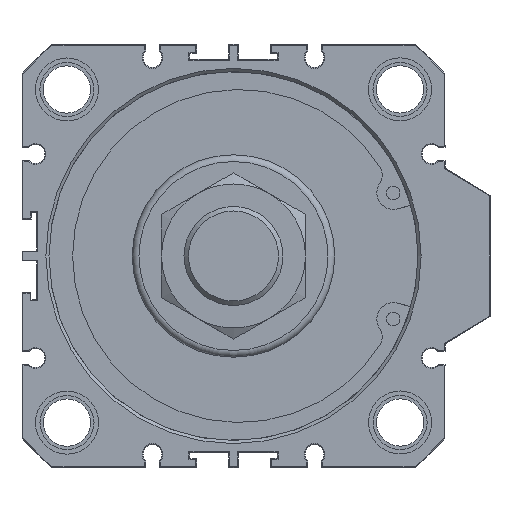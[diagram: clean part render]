
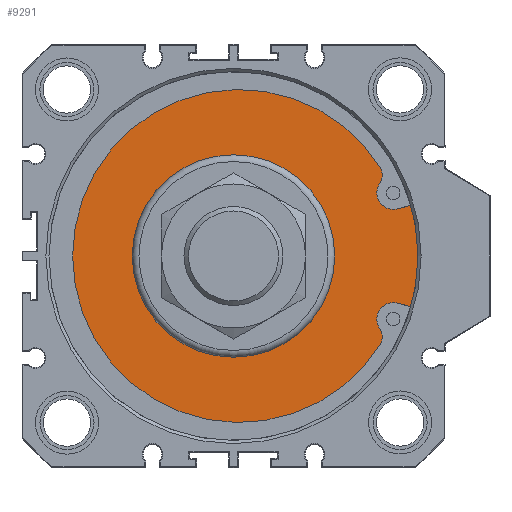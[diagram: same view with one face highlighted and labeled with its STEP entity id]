
A CAD part, front view. The second image highlights one B-rep face of the part: STEP entity #9291.
In plain terms, the highlighted planar face has unit normal (0, -1, 0).
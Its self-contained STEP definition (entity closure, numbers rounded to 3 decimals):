
#56=LINE('',#12771,#656);
#57=LINE('',#12783,#657);
#656=VECTOR('',#10699,1000.);
#657=VECTOR('',#10710,1000.);
#1434=PLANE('',#9821);
#1992=ORIENTED_EDGE('',*,*,#3596,.T.);
#1993=ORIENTED_EDGE('',*,*,#3609,.F.);
#1994=ORIENTED_EDGE('',*,*,#3610,.T.);
#1995=ORIENTED_EDGE('',*,*,#3611,.T.);
#1996=ORIENTED_EDGE('',*,*,#3612,.T.);
#1997=ORIENTED_EDGE('',*,*,#3613,.T.);
#1998=ORIENTED_EDGE('',*,*,#3614,.T.);
#1999=ORIENTED_EDGE('',*,*,#3615,.T.);
#2000=ORIENTED_EDGE('',*,*,#3616,.T.);
#3596=EDGE_CURVE('',#4436,#4436,#4928,.T.);
#3609=EDGE_CURVE('',#4449,#4450,#4939,.T.);
#3610=EDGE_CURVE('',#4449,#4451,#56,.T.);
#3611=EDGE_CURVE('',#4451,#4452,#4940,.T.);
#3612=EDGE_CURVE('',#4452,#4453,#4941,.T.);
#3613=EDGE_CURVE('',#4453,#4454,#4942,.T.);
#3614=EDGE_CURVE('',#4454,#4455,#4943,.T.);
#3615=EDGE_CURVE('',#4455,#4456,#4944,.T.);
#3616=EDGE_CURVE('',#4456,#4450,#57,.T.);
#4436=VERTEX_POINT('',#12737);
#4449=VERTEX_POINT('',#12769);
#4450=VERTEX_POINT('',#12770);
#4451=VERTEX_POINT('',#12772);
#4452=VERTEX_POINT('',#12774);
#4453=VERTEX_POINT('',#12776);
#4454=VERTEX_POINT('',#12778);
#4455=VERTEX_POINT('',#12780);
#4456=VERTEX_POINT('',#12782);
#4928=CIRCLE('',#9805,22.5);
#4939=CIRCLE('',#9822,42.75);
#4940=CIRCLE('',#9823,3.655);
#4941=CIRCLE('',#9824,3.556);
#4942=CIRCLE('',#9825,37.);
#4943=CIRCLE('',#9826,3.556);
#4944=CIRCLE('',#9827,3.655);
#5209=EDGE_LOOP('',(#1992));
#5210=EDGE_LOOP('',(#1993,#1994,#1995,#1996,#1997,#1998,#1999,#2000));
#5723=FACE_BOUND('',#5209,.T.);
#5724=FACE_BOUND('',#5210,.T.);
#9291=ADVANCED_FACE('',(#5723,#5724),#1434,.F.);
#9805=AXIS2_PLACEMENT_3D('',#12736,#10661,#10662);
#9821=AXIS2_PLACEMENT_3D('',#12767,#10695,#10696);
#9822=AXIS2_PLACEMENT_3D('',#12768,#10697,#10698);
#9823=AXIS2_PLACEMENT_3D('',#12773,#10700,#10701);
#9824=AXIS2_PLACEMENT_3D('',#12775,#10702,#10703);
#9825=AXIS2_PLACEMENT_3D('',#12777,#10704,#10705);
#9826=AXIS2_PLACEMENT_3D('',#12779,#10706,#10707);
#9827=AXIS2_PLACEMENT_3D('',#12781,#10708,#10709);
#10661=DIRECTION('',(0.,1.,0.));
#10662=DIRECTION('',(-1.,0.,0.));
#10695=DIRECTION('',(0.,1.,0.));
#10696=DIRECTION('',(-1.,0.,0.));
#10697=DIRECTION('',(0.,1.,0.));
#10698=DIRECTION('',(-1.,0.,0.));
#10699=DIRECTION('',(-0.966,0.,-0.259));
#10700=DIRECTION('',(0.,1.,0.));
#10701=DIRECTION('',(1.,0.,0.));
#10702=DIRECTION('',(0.,-1.,0.));
#10703=DIRECTION('',(-1.,0.,0.));
#10704=DIRECTION('',(0.,-1.,0.));
#10705=DIRECTION('',(1.,0.,0.));
#10706=DIRECTION('',(0.,-1.,0.));
#10707=DIRECTION('',(-1.,0.,0.));
#10708=DIRECTION('',(0.,1.,0.));
#10709=DIRECTION('',(1.,0.,0.));
#10710=DIRECTION('',(0.966,0.,-0.259));
#12736=CARTESIAN_POINT('',(0.,5.5,0.));
#12737=CARTESIAN_POINT('',(-22.5,5.5,0.));
#12767=CARTESIAN_POINT('',(0.,5.5,-3.67));
#12768=CARTESIAN_POINT('',(0.,5.5,0.));
#12769=CARTESIAN_POINT('',(41.112,5.5,11.72));
#12770=CARTESIAN_POINT('',(41.112,5.5,-11.72));
#12771=CARTESIAN_POINT('',(41.112,5.5,11.72));
#12772=CARTESIAN_POINT('',(36.445,5.5,10.469));
#12773=CARTESIAN_POINT('',(35.499,5.5,14.));
#12774=CARTESIAN_POINT('',(32.311,5.5,15.788));
#12775=CARTESIAN_POINT('',(29.497,5.5,17.962));
#12776=CARTESIAN_POINT('',(32.729,5.5,19.444));
#12777=CARTESIAN_POINT('',(1.25,5.5,0.));
#12778=CARTESIAN_POINT('',(32.729,5.5,-19.444));
#12779=CARTESIAN_POINT('',(29.497,5.5,-17.962));
#12780=CARTESIAN_POINT('',(32.311,5.5,-15.788));
#12781=CARTESIAN_POINT('',(35.499,5.5,-14.));
#12782=CARTESIAN_POINT('',(36.445,5.5,-10.469));
#12783=CARTESIAN_POINT('',(36.445,5.5,-10.469));
